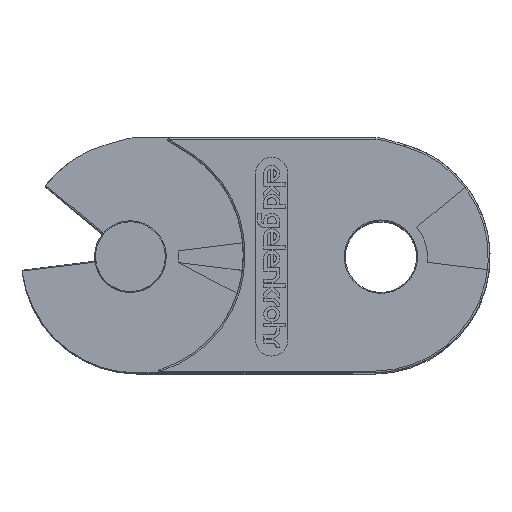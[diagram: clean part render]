
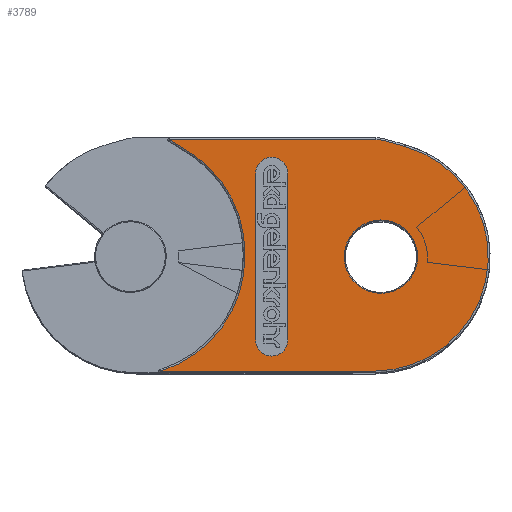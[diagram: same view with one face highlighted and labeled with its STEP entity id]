
A CAD part, top view. The second image highlights one B-rep face of the part: STEP entity #3789.
In plain terms, the highlighted free-form (B-spline) face has degree [1, 1] with [2, 2] control points.
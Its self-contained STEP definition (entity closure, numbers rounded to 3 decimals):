
#3300=CARTESIAN_POINT('',(202.368,175.854,195.0));
#3301=VERTEX_POINT('',#3300);
#3308=CARTESIAN_POINT('',(202.368,129.329,195.0));
#3309=VERTEX_POINT('',#3308);
#3310=CARTESIAN_POINT('',(202.368,129.329,195.0));
#3311=DIRECTION('',(0.0,1.0,0.0));
#3312=VECTOR('',#3311,46.525);
#3313=LINE('',#3310,#3312);
#3314=EDGE_CURVE('',#3309,#3301,#3313,.T.);
#3332=CARTESIAN_POINT('',(211.368,129.329,195.0));
#3333=VERTEX_POINT('',#3332);
#3334=CARTESIAN_POINT('',(206.868,129.329,195.0));
#3335=DIRECTION('',(0.0,0.0,-1.0));
#3336=DIRECTION('',(-1.0,0.0,0.0));
#3337=AXIS2_PLACEMENT_3D('',#3334,#3335,#3336);
#3338=CIRCLE('',#3337,4.5);
#3339=EDGE_CURVE('',#3333,#3309,#3338,.T.);
#3357=CARTESIAN_POINT('',(211.368,175.854,195.0));
#3358=VERTEX_POINT('',#3357);
#3359=CARTESIAN_POINT('',(211.368,175.854,195.0));
#3360=DIRECTION('',(0.0,-1.0,0.0));
#3361=VECTOR('',#3360,46.525);
#3362=LINE('',#3359,#3361);
#3363=EDGE_CURVE('',#3358,#3333,#3362,.T.);
#3381=CARTESIAN_POINT('',(206.868,175.854,195.0));
#3382=DIRECTION('',(0.0,0.0,-1.0));
#3383=DIRECTION('',(1.0,0.0,0.0));
#3384=AXIS2_PLACEMENT_3D('',#3381,#3382,#3383);
#3385=CIRCLE('',#3384,4.5);
#3386=EDGE_CURVE('',#3301,#3358,#3385,.T.);
#3697=CARTESIAN_POINT('',(175.781,185.291,195.0));
#3698=CARTESIAN_POINT('',(267.368,185.291,195.0));
#3699=CARTESIAN_POINT('',(175.781,120.591,195.0));
#3700=CARTESIAN_POINT('',(267.368,120.591,195.0));
#3701=B_SPLINE_SURFACE_WITH_KNOTS('',1,1,((#3697,#3699),(#3698,#3700)),.UNSPECIFIED.,.F.,.F.,.U.,(2,2),(2,2),(0.0,91.588),(0.0,64.7),.UNSPECIFIED.);
#3702=CARTESIAN_POINT('',(235.368,120.591,195.0));
#3703=VERTEX_POINT('',#3702);
#3704=CARTESIAN_POINT('',(244.039,183.394,195.0));
#3705=VERTEX_POINT('',#3704);
#3706=CARTESIAN_POINT('',(235.368,152.591,195.0));
#3707=DIRECTION('',(0.,0.,1.0));
#3708=DIRECTION('',(0.991,-0.137,0.));
#3709=AXIS2_PLACEMENT_3D('',#3706,#3707,#3708);
#3710=CIRCLE('',#3709,32.);
#3711=EDGE_CURVE('',#3703,#3705,#3710,.T.);
#3712=ORIENTED_EDGE('',*,*,#3711,.T.);
#3713=CARTESIAN_POINT('',(238.562,184.936,195.0));
#3714=VERTEX_POINT('',#3713);
#3715=CARTESIAN_POINT('',(244.039,183.394,195.0));
#3716=DIRECTION('',(-0.963,0.271,0.0));
#3717=VECTOR('',#3716,5.69);
#3718=LINE('',#3715,#3717);
#3719=EDGE_CURVE('',#3705,#3714,#3718,.T.);
#3720=ORIENTED_EDGE('',*,*,#3719,.T.);
#3721=CARTESIAN_POINT('',(235.988,185.291,195.0));
#3722=VERTEX_POINT('',#3721);
#3723=CARTESIAN_POINT('',(235.988,175.791,195.0));
#3724=DIRECTION('',(0.,0.,1.));
#3725=DIRECTION('',(0.137,0.991,0.));
#3726=AXIS2_PLACEMENT_3D('',#3723,#3724,#3725);
#3727=CIRCLE('',#3726,9.5);
#3728=EDGE_CURVE('',#3714,#3722,#3727,.T.);
#3729=ORIENTED_EDGE('',*,*,#3728,.T.);
#3730=CARTESIAN_POINT('',(178.367,185.291,195.0));
#3731=VERTEX_POINT('',#3730);
#3732=CARTESIAN_POINT('',(235.988,185.291,195.0));
#3733=DIRECTION('',(-1.0,0.0,0.0));
#3734=VECTOR('',#3733,57.621);
#3735=LINE('',#3732,#3734);
#3736=EDGE_CURVE('',#3722,#3731,#3735,.T.);
#3737=ORIENTED_EDGE('',*,*,#3736,.T.);
#3738=CARTESIAN_POINT('',(185.373,180.828,195.));
#3739=VERTEX_POINT('',#3738);
#3740=CARTESIAN_POINT('',(178.367,185.291,195.0));
#3741=DIRECTION('',(0.843,-0.537,0.));
#3742=VECTOR('',#3741,8.308);
#3743=LINE('',#3740,#3742);
#3744=EDGE_CURVE('',#3731,#3739,#3743,.T.);
#3745=ORIENTED_EDGE('',*,*,#3744,.T.);
#3746=CARTESIAN_POINT('',(199.365,153.091,195.));
#3747=VERTEX_POINT('',#3746);
#3748=CARTESIAN_POINT('',(165.868,153.591,195.0));
#3749=DIRECTION('',(0.,0.,-1.0));
#3750=DIRECTION('',(0.893,0.45,0.));
#3751=AXIS2_PLACEMENT_3D('',#3748,#3749,#3750);
#3752=CIRCLE('',#3751,33.5);
#3753=EDGE_CURVE('',#3739,#3747,#3752,.T.);
#3754=ORIENTED_EDGE('',*,*,#3753,.T.);
#3755=CARTESIAN_POINT('',(175.781,120.591,195.0));
#3756=VERTEX_POINT('',#3755);
#3757=CARTESIAN_POINT('',(165.868,152.591,195.0));
#3758=DIRECTION('',(0.,0.,-1.));
#3759=DIRECTION('',(0.809,-0.587,0.));
#3760=AXIS2_PLACEMENT_3D('',#3757,#3758,#3759);
#3761=CIRCLE('',#3760,33.5);
#3762=EDGE_CURVE('',#3747,#3756,#3761,.T.);
#3763=ORIENTED_EDGE('',*,*,#3762,.T.);
#3764=CARTESIAN_POINT('',(175.781,120.591,195.0));
#3765=DIRECTION('',(1.0,0.0,0.0));
#3766=VECTOR('',#3765,59.588);
#3767=LINE('',#3764,#3766);
#3768=EDGE_CURVE('',#3756,#3703,#3767,.T.);
#3769=ORIENTED_EDGE('',*,*,#3768,.T.);
#3770=EDGE_LOOP('',(#3712,#3720,#3729,#3737,#3745,#3754,#3763,#3769));
#3771=FACE_OUTER_BOUND('',#3770,.T.);
#3772=CARTESIAN_POINT('',(247.618,152.591,195.0));
#3773=VERTEX_POINT('',#3772);
#3774=CARTESIAN_POINT('',(237.368,152.591,195.0));
#3775=DIRECTION('',(0.0,0.0,-1.0));
#3776=DIRECTION('',(-1.0,0.0,0.0));
#3777=AXIS2_PLACEMENT_3D('',#3774,#3775,#3776);
#3778=CIRCLE('',#3777,10.25);
#3779=EDGE_CURVE('',#3773,#3773,#3778,.T.);
#3780=ORIENTED_EDGE('',*,*,#3779,.T.);
#3781=EDGE_LOOP('',(#3780));
#3782=FACE_BOUND('',#3781,.T.);
#3783=ORIENTED_EDGE('',*,*,#3314,.T.);
#3784=ORIENTED_EDGE('',*,*,#3386,.T.);
#3785=ORIENTED_EDGE('',*,*,#3363,.T.);
#3786=ORIENTED_EDGE('',*,*,#3339,.T.);
#3787=EDGE_LOOP('',(#3783,#3784,#3785,#3786));
#3788=FACE_BOUND('',#3787,.T.);
#3789=ADVANCED_FACE('',(#3771,#3782,#3788),#3701,.F.);
